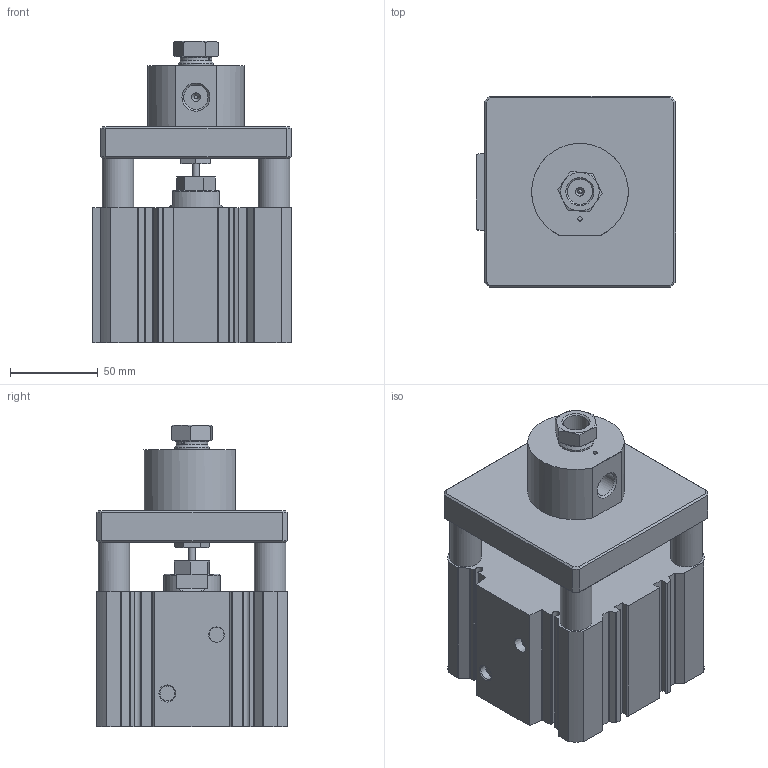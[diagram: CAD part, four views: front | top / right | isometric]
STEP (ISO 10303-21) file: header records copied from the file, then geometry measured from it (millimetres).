
FILE_DESCRIPTION(/* description */ (''),/* implementation_level */ '2;1');
FILE_NAME(/* name */ 'PV-H-7000.stp',/* time_stamp */ '2026-08-09T15:01:54+02:00',/* author */ ('janos'),/* organization */ (''),/* preprocessor_version */ 'ST-DEVELOPER v19.2',/* originating_system */ 'Autodesk Inventor 2024',/* authorisation */ '');
FILE_SCHEMA (('AUTOMOTIVE_DESIGN { 1 0 10303 214 3 1 1 }'));
Length unit declared in the file: millimetre
Products named in the file (1): PN Ventil_Vereinfachen_1
Bounding box: 113.5 x 109 x 171.89 mm (x, y, z)
Volume: 1201023.4 mm3; surface area: 119090.9 mm2
Topology: 1 solids, 1 shells, 334 faces, 907 edges, 592 vertices
Faces by surface type: plane 156, cylinder 126, cone 50, torus 2
Full cylindrical faces by diameter (mm): 1.6 x2, 2 x1, 2.5 x2, 4 x3, 6 x1, 8.376 x4, 8.566 x1, 9.5 x1, 13 x1, 13.7 x4, 13.835 x1, 14.376 x2, 18 x5, 20 x1
Entity records: 10992 total; most frequent: CARTESIAN_POINT 2379, ORIENTED_EDGE 1812, DIRECTION 1807, EDGE_CURVE 906, AXIS2_PLACEMENT_3D 656, VERTEX_POINT 592, LINE 495, VECTOR 495
